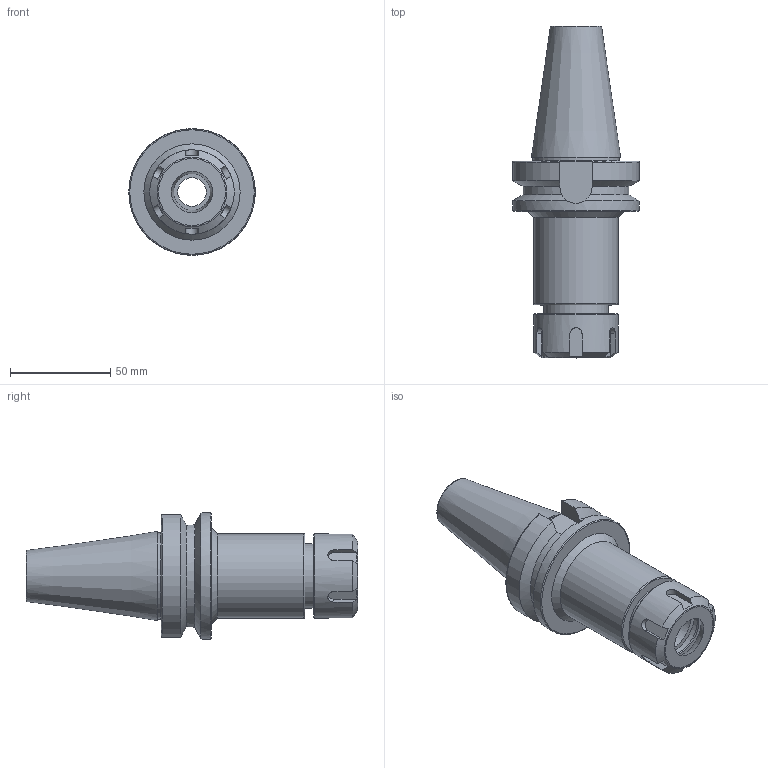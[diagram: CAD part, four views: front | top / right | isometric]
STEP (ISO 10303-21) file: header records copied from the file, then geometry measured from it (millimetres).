
FILE_DESCRIPTION(/* description */ (''),/* implementation_level */ '2;1');
FILE_NAME(/* name */ 'BT40-ER25-100.stp',/* time_stamp */ '2025-06-11T11:13:36+03:00',/* author */ ('User'),/* organization */ (''),/* preprocessor_version */ 'ST-DEVELOPER v19.2',/* originating_system */ 'Autodesk Inventor 2024',/* authorisation */ '');
FILE_SCHEMA (('AUTOMOTIVE_DESIGN { 1 0 10303 214 3 1 1 }'));
Length unit declared in the file: millimetre
Products named in the file (3): BT40-ER25-100; BT40-FMB60-75; ER25-M
Assembly tree (2 placements, depth 2):
  BT40-ER25-100
    BT40-FMB60-75
    ER25-M
Bounding box: 63 x 165.4 x 63 mm (x, y, z)
Volume: 190971.4 mm3; surface area: 41008.5 mm2
Topology: 2 solids, 2 shells, 80 faces, 207 edges, 140 vertices
Faces by surface type: plane 37, cylinder 23, cone 12, torus 8
Full cylindrical faces by diameter (mm): 14.2 x1, 17 x1, 18.254 x1, 25.6 x1, 30.6 x2, 32 x1, 42 x2, 43 x1, 63 x1
Entity records: 2763 total; most frequent: CARTESIAN_POINT 682, ORIENTED_EDGE 414, DIRECTION 405, EDGE_CURVE 207, AXIS2_PLACEMENT_3D 164, VERTEX_POINT 140, EDGE_LOOP 93, FACE_OUTER_BOUND 80
